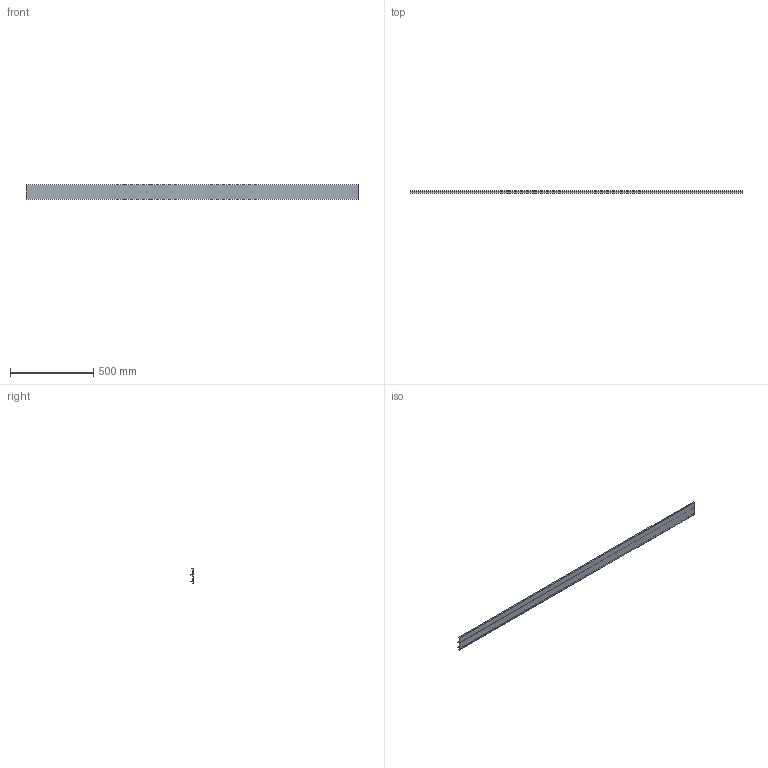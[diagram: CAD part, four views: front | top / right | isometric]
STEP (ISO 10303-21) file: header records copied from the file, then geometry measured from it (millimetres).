
FILE_DESCRIPTION(('STEP AP242'),'1');
FILE_NAME('OPO_65.084.44.stp','2026-02-23T17:31:27',(' '),(' '),'Spatial InterOp 3D',' ',' ');
FILE_SCHEMA(('AP242_MANAGED_MODEL_BASED_3D_ENGINEERING_MIM_LF {1 0 10303 442 1 1 4}'));
Length unit declared in the file: millimetre
Products named in the file (1): 1
Bounding box: 2000 x 13.77 x 89 mm (x, y, z)
Volume: 374164.2 mm3; surface area: 506301.6 mm2
Topology: 1 solids, 1 shells, 63 faces, 169 edges, 112 vertices
Faces by surface type: plane 43, cylinder 20
Entity records: 2487 total; most frequent: CARTESIAN_POINT 345, ORIENTED_EDGE 338, DIRECTION 337, EDGE_CURVE 169, LINE 129, VECTOR 129, VERTEX_POINT 112, AXIS2_PLACEMENT_3D 104
